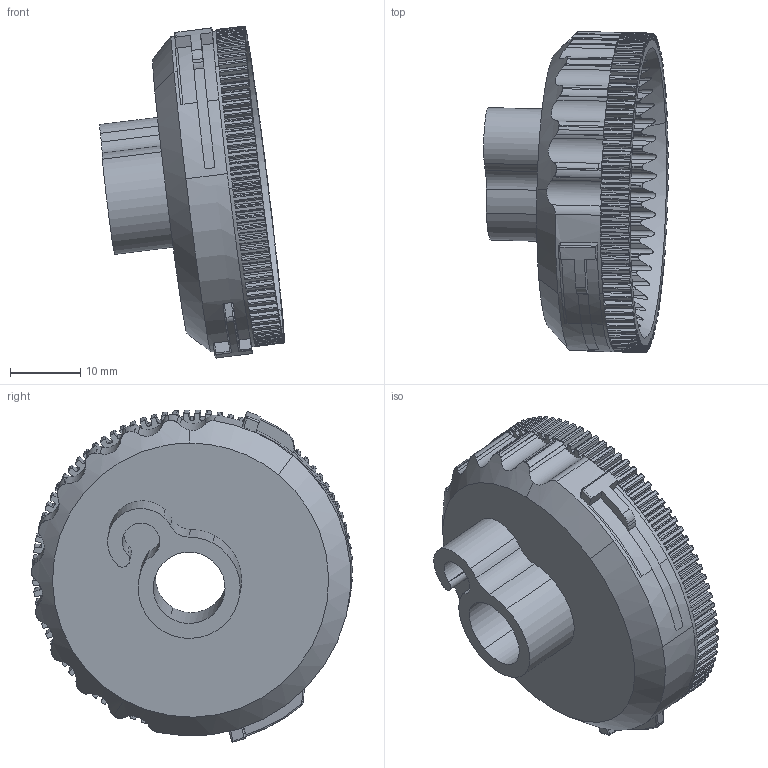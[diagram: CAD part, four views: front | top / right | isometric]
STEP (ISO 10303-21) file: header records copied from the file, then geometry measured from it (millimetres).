
FILE_DESCRIPTION(('CATIA V5 STEP Exchange'),'2;1');
FILE_NAME('G:\够快云库\系统集成开发部\1.部门成员\孙国\3D-stp打印件\20220215\SHT0010363-0924.stp','2022-02-15T02:42:44+00:00',('none'),('none'),'CATIA Version 5 Release 20 GA (IN-10)','CATIA V5 STEP AP214','none');
FILE_SCHEMA(('AUTOMOTIVE_DESIGN { 1 0 10303 214 1 1 1 1 }'));
Length unit declared in the file: millimetre
Products named in the file (1): SHT0010363
Bounding box: 26.24 x 45.62 x 47.18 mm (x, y, z)
Volume: 9686.6 mm3; surface area: 7768.8 mm2
Topology: 1 solids, 1 shells, 1189 faces, 3592 edges, 2404 vertices
Faces by surface type: cylinder 771, plane 397, torus 6, revolution 4, cone 4, sphere 3, bspline 2, extrusion 2
Entity records: 43581 total; most frequent: CARTESIAN_POINT 10013, ORIENTED_EDGE 7178, DIRECTION 5239, EDGE_CURVE 3589, AXIS2_PLACEMENT_3D 2663, VERTEX_POINT 2404, CIRCLE 1668, VECTOR 1579
